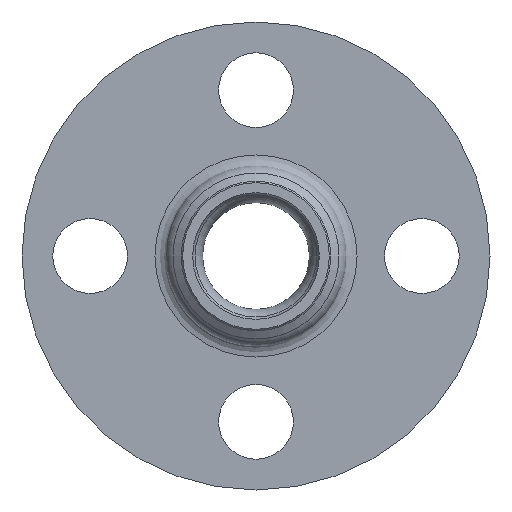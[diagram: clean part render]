
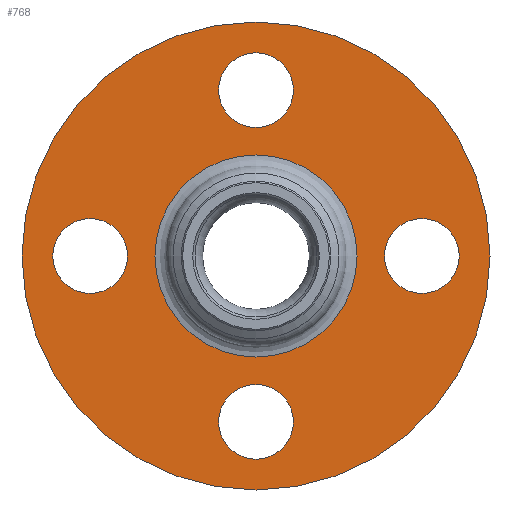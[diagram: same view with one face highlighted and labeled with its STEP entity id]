
A CAD part, left-side view. The second image highlights one B-rep face of the part: STEP entity #768.
In plain terms, the highlighted planar face has unit normal (-1, 0, 0).
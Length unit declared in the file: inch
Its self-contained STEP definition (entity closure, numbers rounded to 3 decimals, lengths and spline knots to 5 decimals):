
#49=FACE_BOUND('',#118,.T.);
#50=FACE_BOUND('',#119,.T.);
#51=FACE_BOUND('',#120,.T.);
#52=FACE_BOUND('',#121,.T.);
#53=FACE_BOUND('',#122,.T.);
#62=PLANE('',#838);
#84=FACE_OUTER_BOUND('',#117,.T.);
#117=EDGE_LOOP('',(#514,#515));
#118=EDGE_LOOP('',(#516));
#119=EDGE_LOOP('',(#517));
#120=EDGE_LOOP('',(#518));
#121=EDGE_LOOP('',(#519));
#122=EDGE_LOOP('',(#520,#521));
#192=CIRCLE('',#819,0.31);
#195=CIRCLE('',#823,0.31);
#198=CIRCLE('',#827,0.31);
#201=CIRCLE('',#831,0.31);
#204=CIRCLE('',#835,0.83785);
#205=CIRCLE('',#836,0.83785);
#207=CIRCLE('',#839,1.94);
#208=CIRCLE('',#840,1.94);
#290=VERTEX_POINT('',#1272);
#293=VERTEX_POINT('',#1280);
#296=VERTEX_POINT('',#1288);
#299=VERTEX_POINT('',#1296);
#302=VERTEX_POINT('',#1303);
#303=VERTEX_POINT('',#1305);
#304=VERTEX_POINT('',#1310);
#305=VERTEX_POINT('',#1311);
#377=EDGE_CURVE('',#290,#290,#192,.T.);
#381=EDGE_CURVE('',#293,#293,#195,.T.);
#385=EDGE_CURVE('',#296,#296,#198,.T.);
#389=EDGE_CURVE('',#299,#299,#201,.T.);
#392=EDGE_CURVE('',#302,#303,#204,.T.);
#393=EDGE_CURVE('',#303,#302,#205,.T.);
#395=EDGE_CURVE('',#304,#305,#207,.T.);
#396=EDGE_CURVE('',#305,#304,#208,.T.);
#514=ORIENTED_EDGE('',*,*,#395,.F.);
#515=ORIENTED_EDGE('',*,*,#396,.F.);
#516=ORIENTED_EDGE('',*,*,#377,.T.);
#517=ORIENTED_EDGE('',*,*,#381,.T.);
#518=ORIENTED_EDGE('',*,*,#385,.T.);
#519=ORIENTED_EDGE('',*,*,#389,.T.);
#520=ORIENTED_EDGE('',*,*,#393,.F.);
#521=ORIENTED_EDGE('',*,*,#392,.F.);
#768=ADVANCED_FACE('',(#84,#49,#50,#51,#52,#53),#62,.T.);
#819=AXIS2_PLACEMENT_3D('',#1274,#969,#970);
#823=AXIS2_PLACEMENT_3D('',#1282,#978,#979);
#827=AXIS2_PLACEMENT_3D('',#1290,#987,#988);
#831=AXIS2_PLACEMENT_3D('',#1298,#996,#997);
#835=AXIS2_PLACEMENT_3D('',#1306,#1004,#1005);
#836=AXIS2_PLACEMENT_3D('',#1307,#1006,#1007);
#838=AXIS2_PLACEMENT_3D('',#1309,#1010,#1011);
#839=AXIS2_PLACEMENT_3D('',#1312,#1012,#1013);
#840=AXIS2_PLACEMENT_3D('',#1313,#1014,#1015);
#969=DIRECTION('center_axis',(1.,0.,0.));
#970=DIRECTION('ref_axis',(0.,-1.,0.));
#978=DIRECTION('center_axis',(1.,0.,0.));
#979=DIRECTION('ref_axis',(0.,0.,1.));
#987=DIRECTION('center_axis',(1.,0.,0.));
#988=DIRECTION('ref_axis',(0.,1.,0.));
#996=DIRECTION('center_axis',(1.,0.,0.));
#997=DIRECTION('ref_axis',(0.,0.,-1.));
#1004=DIRECTION('center_axis',(-1.,0.,0.));
#1005=DIRECTION('ref_axis',(0.,-1.,0.));
#1006=DIRECTION('center_axis',(-1.,0.,0.));
#1007=DIRECTION('ref_axis',(0.,-1.,0.));
#1010=DIRECTION('center_axis',(-1.,0.,0.));
#1011=DIRECTION('ref_axis',(0.,0.,1.));
#1012=DIRECTION('center_axis',(1.,0.,0.));
#1013=DIRECTION('ref_axis',(0.,1.,0.));
#1014=DIRECTION('center_axis',(1.,0.,0.));
#1015=DIRECTION('ref_axis',(0.,1.,0.));
#1272=CARTESIAN_POINT('',(1.17,0.31,-1.375));
#1274=CARTESIAN_POINT('Origin',(1.17,0.,-1.375));
#1280=CARTESIAN_POINT('',(1.17,-1.375,-0.31));
#1282=CARTESIAN_POINT('Origin',(1.17,-1.375,0.));
#1288=CARTESIAN_POINT('',(1.17,-0.31,1.375));
#1290=CARTESIAN_POINT('Origin',(1.17,0.,1.375));
#1296=CARTESIAN_POINT('',(1.17,1.375,0.31));
#1298=CARTESIAN_POINT('Origin',(1.17,1.375,0.));
#1303=CARTESIAN_POINT('',(1.17,0.,0.83785));
#1305=CARTESIAN_POINT('',(1.17,0.83785,0.));
#1306=CARTESIAN_POINT('Origin',(1.17,0.,0.));
#1307=CARTESIAN_POINT('Origin',(1.17,0.,0.));
#1309=CARTESIAN_POINT('Origin',(1.17,1.345,0.));
#1310=CARTESIAN_POINT('',(1.17,1.94,0.));
#1311=CARTESIAN_POINT('',(1.17,-1.94,0.));
#1312=CARTESIAN_POINT('Origin',(1.17,0.,0.));
#1313=CARTESIAN_POINT('Origin',(1.17,0.,0.));
